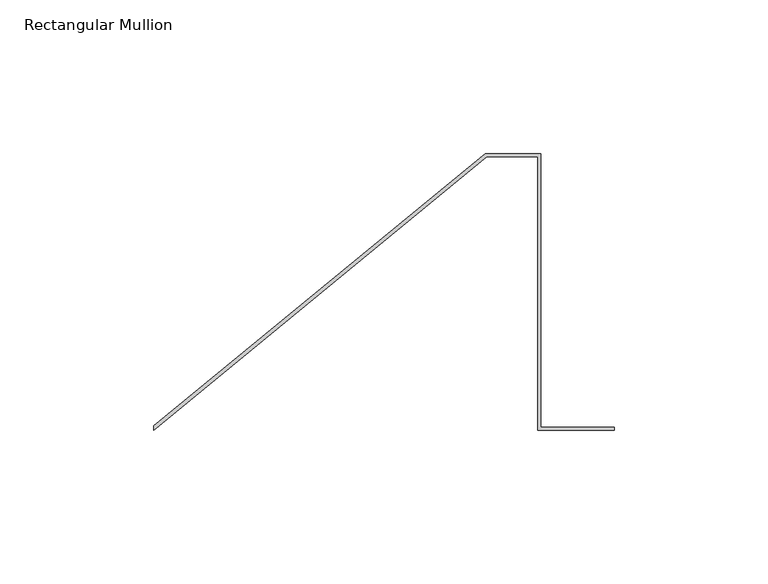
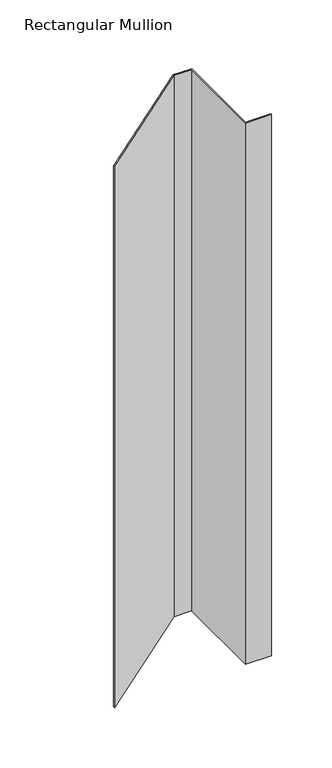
"""IFC4 building model written with IfcOpenShell, lengths in millimetres: member geometry, Rectangular Mullion : CD_NINELINE_Sawtooth Start Intermediate."""

import ifcopenshell
import ifcopenshell.guid

model = None  # the IFC model being written
_history = None  # IfcOwnerHistory: only IFC2X3 demands one
_inside = {}  # id of a spatial element -> (the spatial element, [elements in it])
_under = {}  # id of a project, library or spatial element -> (it, [spatial elements below it])
_declared = {}  # id of a project -> (the project, [libraries it declares])
_typed = {}  # id of a type object -> (the type object, [elements of that type])
_made_of = {}  # id of a material, layer set ... -> (it, [elements and type objects made of it])


def new_model(schema):
    """Start an empty IFC model of exactly this schema.

    Asked for "IFC4X3", IfcOpenShell would pick the latest addendum, in which some entities
    have other attributes; the version numbers below select the first issue.
    IFC2X3 requires an IfcOwnerHistory on every rooted entity: one is made here for all.
    """
    global model, _history
    if schema == "IFC4X3":
        model = ifcopenshell.file(schema_version=(4, 3, 0, 0))
    else:
        model = ifcopenshell.file(schema=schema)
    _inside.clear()
    _under.clear()
    _declared.clear()
    _typed.clear()
    _made_of.clear()
    _history = None
    if model.schema == "IFC2X3":
        org = make("IfcOrganization", Name="unknown")
        user = make(
            "IfcPersonAndOrganization",
            ThePerson=make("IfcPerson", FamilyName="unknown"),
            TheOrganization=org,
        )
        app = make(
            "IfcApplication",
            ApplicationDeveloper=org,
            Version="unknown",
            ApplicationFullName="unknown",
            ApplicationIdentifier="unknown",
        )
        _history = make(
            "IfcOwnerHistory",
            OwningUser=user,
            OwningApplication=app,
            ChangeAction="ADDED",
            CreationDate=0,
        )
    return model


def make(cls, **values):
    """One entity of the class cls with the attributes given. An attribute that is None is left unset."""
    return model.create_entity(
        cls, **{name: value for name, value in values.items() if value is not None}
    )


def rooted(cls, **values):
    """An entity with a GlobalId (a new one), such as an element, a storey or a relation."""
    return make(cls, GlobalId=ifcopenshell.guid.new(), OwnerHistory=_history, **values)


def si_unit(unit_type, name, prefix=None):
    """IfcSIUnit, for example si_unit("LENGTHUNIT", "METRE", prefix="MILLI")."""
    return make("IfcSIUnit", UnitType=unit_type, Prefix=prefix, Name=name)


def assignment(units):
    """IfcUnitAssignment: the units of a project."""
    return None if units is None else make("IfcUnitAssignment", Units=units)


def point(xyz):
    """IfcCartesianPoint."""
    return None if xyz is None else make("IfcCartesianPoint", Coordinates=xyz)


def direction(xyz):
    """IfcDirection."""
    return None if xyz is None else make("IfcDirection", DirectionRatios=xyz)


def frame(location, z_axis=None, x_axis=None):
    """IfcAxis2Placement3D, a coordinate frame: its origin and axes. An axis left out is left unset."""
    return make(
        "IfcAxis2Placement3D",
        Location=point(location),
        Axis=direction(z_axis),
        RefDirection=direction(x_axis),
    )


def origin():
    """The frame at (0, 0, 0) with its axes left unset."""
    return frame((0.0, 0.0, 0.0))


def place(relative_to, where):
    """IfcLocalPlacement: puts the frame where relative to a parent placement (None: the world)."""
    return make(
        "IfcLocalPlacement", PlacementRelTo=relative_to, RelativePlacement=where
    )


def context(
    kind, dimensions, precision=None, world=None, true_north=None, identifier=None
):
    """IfcGeometricRepresentationContext, for example the 3D "Model" context."""
    return make(
        "IfcGeometricRepresentationContext",
        ContextIdentifier=identifier,
        ContextType=kind,
        CoordinateSpaceDimension=dimensions,
        Precision=precision,
        WorldCoordinateSystem=world,
        TrueNorth=true_north,
    )


def project(units=None, contexts=None):
    """IfcProject with its units and contexts."""
    return rooted(
        "IfcProject",
        Name="project",
        RepresentationContexts=contexts,
        UnitsInContext=assignment(units),
    )


def spatial(cls, under=None, at=None, **own):
    """A site, building, storey or space (cls), placed at a placement, below another one or the project."""
    s = rooted(cls, ObjectPlacement=at, **own)
    if under is not None:
        _under.setdefault(under.id(), (under, []))[1].append(s)
    return s


def polyline(points):
    """IfcPolyline through the points."""
    return make("IfcPolyline", Points=[point(p) for p in points])


def outline(outer, holes=None, kind="AREA"):
    """IfcArbitraryClosedProfileDef: a profile drawn as a closed curve; with holes, ...WithVoids."""
    if holes is None:
        return make("IfcArbitraryClosedProfileDef", ProfileType=kind, OuterCurve=outer)
    return make(
        "IfcArbitraryProfileDefWithVoids",
        ProfileType=kind,
        OuterCurve=outer,
        InnerCurves=holes,
    )


def extrude(swept, where, along, depth):
    """IfcExtrudedAreaSolid: the profile swept, set in the frame where, extruded along a direction by depth."""
    return make(
        "IfcExtrudedAreaSolid",
        SweptArea=swept,
        Position=where,
        ExtrudedDirection=direction(along),
        Depth=depth,
    )


def shape(context_of_items, identifier, shape_type, items):
    """IfcShapeRepresentation: the items that make up one representation, for example the "Body"."""
    return make(
        "IfcShapeRepresentation",
        ContextOfItems=context_of_items,
        RepresentationIdentifier=identifier,
        RepresentationType=shape_type,
        Items=items,
    )


def source(mapping_origin, context_of_items, identifier, shape_type, items):
    """IfcRepresentationMap: a shape defined once, which mapped items show again and again."""
    return make(
        "IfcRepresentationMap",
        MappingOrigin=mapping_origin,
        MappedRepresentation=shape(context_of_items, identifier, shape_type, items),
    )


def transform(
    local_origin,
    x_axis=None,
    y_axis=None,
    z_axis=None,
    scale=None,
    scale2=None,
    scale3=None,
    uniform=True,
):
    """IfcCartesianTransformationOperator3D, or its non-uniform kind. x_axis, y_axis, z_axis: its Axis1, 2, 3."""
    if uniform:
        return make(
            "IfcCartesianTransformationOperator3D",
            Axis1=direction(x_axis),
            Axis2=direction(y_axis),
            LocalOrigin=point(local_origin),
            Scale=scale,
            Axis3=direction(z_axis),
        )
    return make(
        "IfcCartesianTransformationOperator3DnonUniform",
        Axis1=direction(x_axis),
        Axis2=direction(y_axis),
        LocalOrigin=point(local_origin),
        Scale=scale,
        Axis3=direction(z_axis),
        Scale2=scale2,
        Scale3=scale3,
    )


def mapped(mapping_source, mapping_target):
    """IfcMappedItem: shows the shape of a source again, moved by a transform."""
    return make(
        "IfcMappedItem", MappingSource=mapping_source, MappingTarget=mapping_target
    )


def made_of(thing, what):
    """Note that an element or type object is made of a material, layer set ...; save() writes the relation."""
    if what is not None:
        _made_of.setdefault(what.id(), (what, []))[1].append(thing)
    return thing


def element(
    cls,
    number,
    at=None,
    inside=None,
    cuts=None,
    type_object=None,
    material=None,
    context=None,
    identifier="Body",
    shape_type=None,
    held_by="IfcProductDefinitionShape",
    body=None,
    shapes=None,
    **own,
):
    """One element of the class cls, such as IfcWall. Its Tag is "e" and its number.

    at: its placement. inside: the storey or other place that contains it. cuts: it is an
    opening in that element (IfcRelVoidsElement). A single representation is given by context,
    identifier, shape_type and body (its items); several are given by shapes. held_by: the class
    of the entity that holds the representations. save() writes the other relations.
    """
    e = rooted(cls, Tag="e%d" % number, ObjectPlacement=at, **own)
    if body is not None:
        shapes = [shape(context, identifier, shape_type, body)]
    if shapes is not None:
        e.Representation = make(held_by, Representations=shapes)
    if inside is not None:
        _inside.setdefault(inside.id(), (inside, []))[1].append(e)
    if cuts is not None:
        rooted(
            "IfcRelVoidsElement", RelatingBuildingElement=cuts, RelatedOpeningElement=e
        )
    if type_object is not None:
        _typed.setdefault(type_object.id(), (type_object, []))[1].append(e)
    return made_of(e, material)


def aggregate(whole, parts):
    """IfcRelAggregates: a whole, such as a stair, and the parts it consists of."""
    return rooted("IfcRelAggregates", RelatingObject=whole, RelatedObjects=parts)


def save(model, path):
    """Write the relations noted so far, then the file.

    IfcRelAggregates (storeys below a building ...), IfcRelContainedInSpatialStructure (elements
    in a storey), IfcRelDefinesByType, IfcRelAssociatesMaterial and IfcRelDeclares: one each for
    every whole, place, type object, material and project.
    """
    for whole, parts in _under.values():
        aggregate(whole, parts)
    for where, things in _inside.values():
        rooted(
            "IfcRelContainedInSpatialStructure",
            RelatedElements=things,
            RelatingStructure=where,
        )
    for kind, things in _typed.values():
        rooted("IfcRelDefinesByType", RelatedObjects=things, RelatingType=kind)
    for what, things in _made_of.values():
        rooted("IfcRelAssociatesMaterial", RelatedObjects=things, RelatingMaterial=what)
    for by, libraries in _declared.values():
        rooted("IfcRelDeclares", RelatingContext=by, RelatedDefinitions=libraries)
    model.write(path)


def rectangular_mullion_6f976a3b(model_context):
    return source(origin(), model_context, "Body", "SweptSolid", [
        extrude(outline(polyline([(58.5, 0.0), (58.5, 89.0), (41.9195723, 89.0), (-66.5, 0.0), (-66.5, 1.337022), (41.5090129, 90.0), (59.5, 90.0), (59.5, 1.0), (83.5, 1.0), (83.5, 0.0), (58.5, 0.0)])), frame((0.0, 0.0, -547.0), z_axis=(0.0, 0.0, 1.0), x_axis=(1.0, 0.0, 0.0)), (0.0, 0.0, 1.0), 547.0),
    ])


if __name__ == "__main__":
    model = new_model("IFC4")
    model_context = context("Model", 3, world=origin())
    ifc_project = project(units=[si_unit("LENGTHUNIT", "METRE", prefix="MILLI")], contexts=[model_context])
    site = spatial("IfcSite", under=ifc_project)
    building = spatial("IfcBuilding", under=site)
    placement = place(None, origin())
    rectangular_mullion_shape = rectangular_mullion_6f976a3b(model_context)
    element("IfcMember", 1, ObjectType="Rectangular Mullion : CD_NINELINE_Sawtooth Start Intermediate", at=placement, inside=building, context=model_context, shape_type="MappedRepresentation", body=[
        mapped(rectangular_mullion_shape, transform((0.0, 0.0, 0.0), x_axis=(1.0, 0.0, 0.0), y_axis=(0.0, 1.0, 0.0), z_axis=(0.0, 0.0, 1.0))),
    ])
    save(model, "model.ifc")
